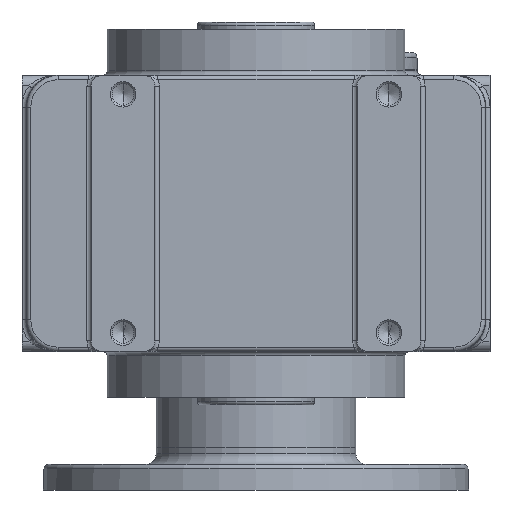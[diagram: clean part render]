
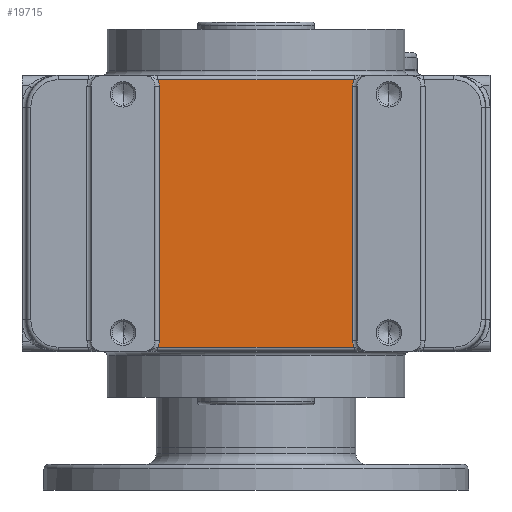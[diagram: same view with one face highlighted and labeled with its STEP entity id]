
A CAD part, front view. The second image highlights one B-rep face of the part: STEP entity #19715.
In plain terms, the highlighted planar face has unit normal (0, -1, 0).
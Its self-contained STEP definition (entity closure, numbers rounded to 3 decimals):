
#19698 = ORIENTED_EDGE ( 'NONE', *, *, #19699, .T. ) ;
#19699 = EDGE_CURVE ( 'NONE', #19781, #19700, #29596, .T. ) ;
#19700 = VERTEX_POINT ( 'NONE', #29592 ) ;
#19701 = ORIENTED_EDGE ( 'NONE', *, *, #19702, .T. ) ;
#19702 = EDGE_CURVE ( 'NONE', #19700, #19703, #29591, .T. ) ;
#19703 = VERTEX_POINT ( 'NONE', #29586 ) ;
#19715 = ADVANCED_FACE ( 'NONE', ( #29608 ), #29607, .T. ) ;
#19716 = EDGE_LOOP ( 'NONE', ( #19773, #19776, #19779, #19698, #19701, #19759, #19762, #19765 ) ) ;
#19717 = VERTEX_POINT ( 'NONE', #29602 ) ;
#19759 = ORIENTED_EDGE ( 'NONE', *, *, #19760, .T. ) ;
#19760 = EDGE_CURVE ( 'NONE', #19703, #19761, #29709, .T. ) ;
#19761 = VERTEX_POINT ( 'NONE', #29705 ) ;
#19762 = ORIENTED_EDGE ( 'NONE', *, *, #19763, .T. ) ;
#19763 = EDGE_CURVE ( 'NONE', #19761, #19764, #29704, .T. ) ;
#19764 = VERTEX_POINT ( 'NONE', #29699 ) ;
#19765 = ORIENTED_EDGE ( 'NONE', *, *, #19766, .T. ) ;
#19766 = EDGE_CURVE ( 'NONE', #19764, #19717, #29698, .T. ) ;
#19773 = ORIENTED_EDGE ( 'NONE', *, *, #19774, .T. ) ;
#19774 = EDGE_CURVE ( 'NONE', #19717, #19775, #29746, .T. ) ;
#19775 = VERTEX_POINT ( 'NONE', #29741 ) ;
#19776 = ORIENTED_EDGE ( 'NONE', *, *, #19777, .T. ) ;
#19777 = EDGE_CURVE ( 'NONE', #19775, #19778, #29740, .T. ) ;
#19778 = VERTEX_POINT ( 'NONE', #29736 ) ;
#19779 = ORIENTED_EDGE ( 'NONE', *, *, #19780, .T. ) ;
#19780 = EDGE_CURVE ( 'NONE', #19778, #19781, #29735, .T. ) ;
#19781 = VERTEX_POINT ( 'NONE', #29730 ) ;
#29586 = CARTESIAN_POINT ( 'NONE',  ( 46.203, -98., 127.86 ) ) ;
#29587 = DIRECTION ( 'NONE',  ( 0., 0., -1. ) ) ;
#29588 = DIRECTION ( 'NONE',  ( 0., 1., 0. ) ) ;
#29589 = CARTESIAN_POINT ( 'NONE',  ( 52.5, -98., 124.843 ) ) ;
#29590 = AXIS2_PLACEMENT_3D ( 'NONE', #29589, #29588, #29587 ) ;
#29591 = CIRCLE ( 'NONE', #29590, 6.983 ) ;
#29592 = CARTESIAN_POINT ( 'NONE',  ( 45.517, -98., 124.843 ) ) ;
#29593 = DIRECTION ( 'NONE',  ( 0., 0., 1. ) ) ;
#29594 = VECTOR ( 'NONE', #29593, 1000. ) ;
#29595 = CARTESIAN_POINT ( 'NONE',  ( 45.517, -98., 115. ) ) ;
#29596 = LINE ( 'NONE', #29595, #29594 ) ;
#29602 = CARTESIAN_POINT ( 'NONE',  ( -45.517, -98., 5.157 ) ) ;
#29603 = DIRECTION ( 'NONE',  ( 0., 0., -1. ) ) ;
#29604 = DIRECTION ( 'NONE',  ( 0., -1., 0. ) ) ;
#29605 = CARTESIAN_POINT ( 'NONE',  ( -93., -98., 115. ) ) ;
#29606 = AXIS2_PLACEMENT_3D ( 'NONE', #29605, #29604, #29603 ) ;
#29607 = PLANE ( 'NONE',  #29606 ) ;
#29608 = FACE_OUTER_BOUND ( 'NONE', #19716, .T. ) ;
#29695 = DIRECTION ( 'NONE',  ( 0., 0., -1. ) ) ;
#29696 = VECTOR ( 'NONE', #29695, 1000. ) ;
#29697 = CARTESIAN_POINT ( 'NONE',  ( -45.517, -98., 115. ) ) ;
#29698 = LINE ( 'NONE', #29697, #29696 ) ;
#29699 = CARTESIAN_POINT ( 'NONE',  ( -45.517, -98., 124.843 ) ) ;
#29700 = DIRECTION ( 'NONE',  ( 0., 0., -1. ) ) ;
#29701 = DIRECTION ( 'NONE',  ( 0., 1., 0. ) ) ;
#29702 = CARTESIAN_POINT ( 'NONE',  ( -52.5, -98., 124.843 ) ) ;
#29703 = AXIS2_PLACEMENT_3D ( 'NONE', #29702, #29701, #29700 ) ;
#29704 = CIRCLE ( 'NONE', #29703, 6.983 ) ;
#29705 = CARTESIAN_POINT ( 'NONE',  ( -46.203, -98., 127.86 ) ) ;
#29706 = DIRECTION ( 'NONE',  ( -1., 0., 0. ) ) ;
#29707 = VECTOR ( 'NONE', #29706, 1000. ) ;
#29708 = CARTESIAN_POINT ( 'NONE',  ( -52.5, -98., 127.86 ) ) ;
#29709 = LINE ( 'NONE', #29708, #29707 ) ;
#29730 = CARTESIAN_POINT ( 'NONE',  ( 45.517, -98., 5.157 ) ) ;
#29731 = DIRECTION ( 'NONE',  ( 0., 0., -1. ) ) ;
#29732 = DIRECTION ( 'NONE',  ( 0., 1., 0. ) ) ;
#29733 = CARTESIAN_POINT ( 'NONE',  ( 52.5, -98., 5.157 ) ) ;
#29734 = AXIS2_PLACEMENT_3D ( 'NONE', #29733, #29732, #29731 ) ;
#29735 = CIRCLE ( 'NONE', #29734, 6.983 ) ;
#29736 = CARTESIAN_POINT ( 'NONE',  ( 46.203, -98., 2.14 ) ) ;
#29737 = DIRECTION ( 'NONE',  ( 1., 0., 0. ) ) ;
#29738 = VECTOR ( 'NONE', #29737, 1000. ) ;
#29739 = CARTESIAN_POINT ( 'NONE',  ( 52.5, -98., 2.14 ) ) ;
#29740 = LINE ( 'NONE', #29739, #29738 ) ;
#29741 = CARTESIAN_POINT ( 'NONE',  ( -46.203, -98., 2.14 ) ) ;
#29742 = DIRECTION ( 'NONE',  ( 0., 0., -1. ) ) ;
#29743 = DIRECTION ( 'NONE',  ( 0., 1., 0. ) ) ;
#29744 = CARTESIAN_POINT ( 'NONE',  ( -52.5, -98., 5.157 ) ) ;
#29745 = AXIS2_PLACEMENT_3D ( 'NONE', #29744, #29743, #29742 ) ;
#29746 = CIRCLE ( 'NONE', #29745, 6.983 ) ;
